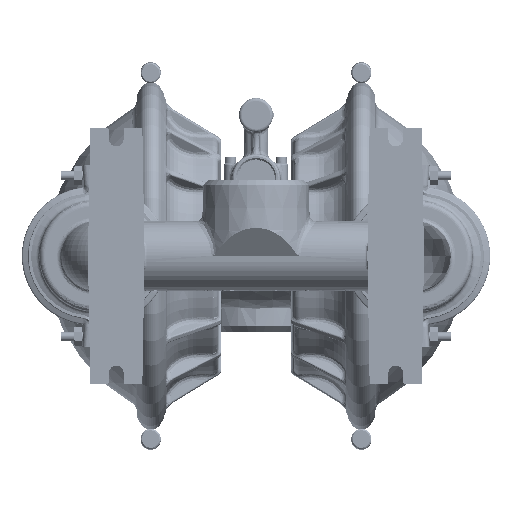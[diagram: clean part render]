
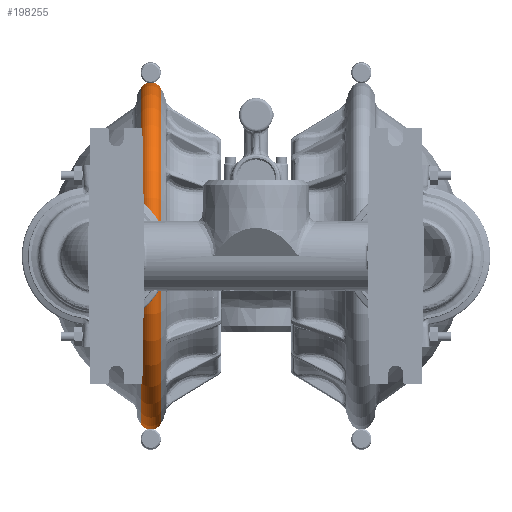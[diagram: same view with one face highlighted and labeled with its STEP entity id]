
A CAD part, front view. The second image highlights one B-rep face of the part: STEP entity #198255.
In plain terms, the highlighted toroidal (fillet/blend) face has major radius 177.937 mm and minor radius 12.563 mm.
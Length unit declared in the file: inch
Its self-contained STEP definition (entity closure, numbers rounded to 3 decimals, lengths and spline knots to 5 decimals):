
#11769 = EDGE_CURVE ( 'NONE', #77378, #407560, #87196, .T. ) ;
#26579 = AXIS2_PLACEMENT_3D ( 'NONE', #282852, #427363, #356271 ) ;
#30660 = DIRECTION ( 'NONE',  ( -1., 0., 0. ) ) ;
#32978 = DIRECTION ( 'NONE',  ( 0., 0.036, 0.999 ) ) ;
#77378 = VERTEX_POINT ( 'NONE', #154133 ) ;
#83403 = CARTESIAN_POINT ( 'NONE',  ( -4.97334, 0., 0. ) ) ;
#87196 = CIRCLE ( 'NONE', #26579, 0.4946 ) ;
#107526 = DIRECTION ( 'NONE',  ( -0.866, -0.018, -0.5 ) ) ;
#109866 = DIRECTION ( 'NONE',  ( 0., -0.999, 0.036 ) ) ;
#110299 = AXIS2_PLACEMENT_3D ( 'NONE', #312471, #276949, #421457 ) ;
#118936 = DIRECTION ( 'NONE',  ( -1., 0., 0. ) ) ;
#145139 = ORIENTED_EDGE ( 'NONE', *, *, #219699, .T. ) ;
#154133 = CARTESIAN_POINT ( 'NONE',  ( -4.97334, -0.26084, 7.24801 ) ) ;
#174291 = ORIENTED_EDGE ( 'NONE', *, *, #284615, .T. ) ;
#183264 = CARTESIAN_POINT ( 'NONE',  ( -4.545, -0.25195, -7.00087 ) ) ;
#194694 = DIRECTION ( 'NONE',  ( 0., -0.036, -0.999 ) ) ;
#197195 = CIRCLE ( 'NONE', #295616, 0.4946 ) ;
#198255 = ADVANCED_FACE ( 'NONE', ( #359925 ), #439767, .T. ) ;
#219699 = EDGE_CURVE ( 'NONE', #388187, #407560, #307064, .T. ) ;
#228833 = ORIENTED_EDGE ( 'NONE', *, *, #11769, .F. ) ;
#242509 = VERTEX_POINT ( 'NONE', #468347 ) ;
#276949 = DIRECTION ( 'NONE',  ( -1., 0., 0. ) ) ;
#282852 = CARTESIAN_POINT ( 'NONE',  ( -4.545, -0.25195, 7.00087 ) ) ;
#284615 = EDGE_CURVE ( 'NONE', #242509, #388187, #197195, .T. ) ;
#295616 = AXIS2_PLACEMENT_3D ( 'NONE', #183264, #109866, #107526 ) ;
#307064 = CIRCLE ( 'NONE', #110299, 7.2527 ) ;
#312471 = CARTESIAN_POINT ( 'NONE',  ( -4.11666, 0., 0. ) ) ;
#315639 = CIRCLE ( 'NONE', #414062, 7.2527 ) ;
#350621 = CARTESIAN_POINT ( 'NONE',  ( -4.545, 0., 0. ) ) ;
#356271 = DIRECTION ( 'NONE',  ( -0.866, -0.018, 0.5 ) ) ;
#359925 = FACE_OUTER_BOUND ( 'NONE', #394485, .T. ) ;
#388187 = VERTEX_POINT ( 'NONE', #393039 ) ;
#393039 = CARTESIAN_POINT ( 'NONE',  ( -4.11666, -0.26084, -7.24801 ) ) ;
#394485 = EDGE_LOOP ( 'NONE', ( #145139, #228833, #424954, #174291 ) ) ;
#407560 = VERTEX_POINT ( 'NONE', #450862 ) ;
#414062 = AXIS2_PLACEMENT_3D ( 'NONE', #83403, #118936, #194694 ) ;
#421457 = DIRECTION ( 'NONE',  ( 0., -0.036, -0.999 ) ) ;
#423842 = EDGE_CURVE ( 'NONE', #242509, #77378, #315639, .T. ) ;
#424954 = ORIENTED_EDGE ( 'NONE', *, *, #423842, .F. ) ;
#427363 = DIRECTION ( 'NONE',  ( 0., 0.999, 0.036 ) ) ;
#431998 = AXIS2_PLACEMENT_3D ( 'NONE', #350621, #30660, #32978 ) ;
#439767 = TOROIDAL_SURFACE ( 'NONE', #431998, 7.0054, 0.4946 ) ;
#450862 = CARTESIAN_POINT ( 'NONE',  ( -4.11666, -0.26084, 7.24801 ) ) ;
#468347 = CARTESIAN_POINT ( 'NONE',  ( -4.97334, -0.26084, -7.24801 ) ) ;
